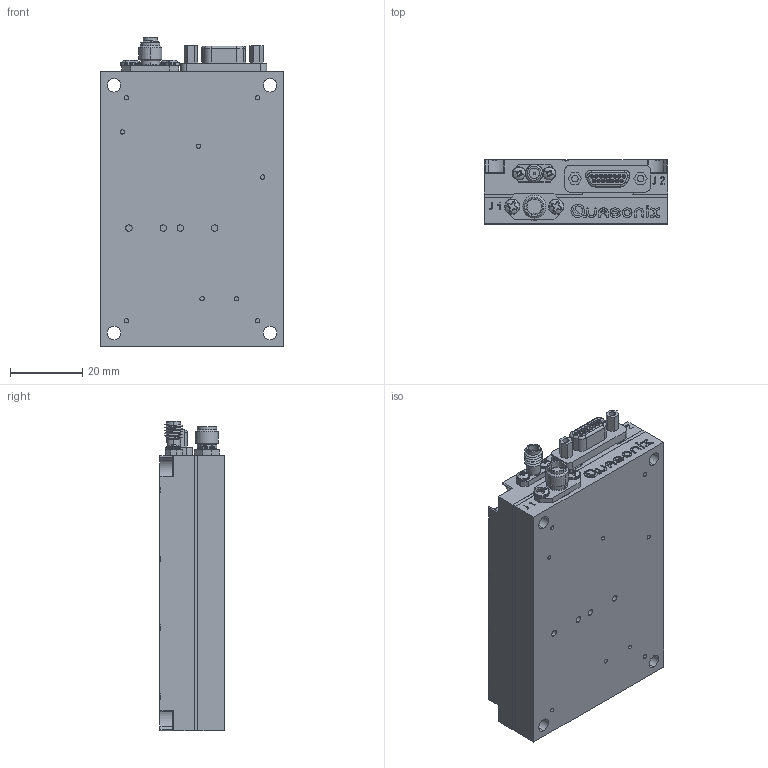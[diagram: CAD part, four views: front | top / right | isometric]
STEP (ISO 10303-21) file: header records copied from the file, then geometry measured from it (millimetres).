
FILE_DESCRIPTION (( 'STEP AP203' ), '1' );
FILE_NAME ('04AC_9-24-13.STEP', '2013-09-24T17:19:56', ( 'Quasonix' ), ( '' ), 'SwSTEP 2.0', 'SolidWorks 2012', '' );
FILE_SCHEMA (( 'CONFIG_CONTROL_DESIGN' ));
Length unit declared in the file: inch
Products named in the file (1): 04AC_9-24-13
Bounding box: 50.8 x 17.78 x 85.72 mm (x, y, z)
Surface area: 18536.3 mm2 (no closed solid volume)
Topology: 0 solids, 42 shells, 747 faces, 2216 edges, 1498 vertices
Faces by surface type: plane 398, cylinder 177, bspline 73, cone 66, torus 25, sphere 8
Entity records: 26780 total; most frequent: CARTESIAN_POINT 7053, DIRECTION 4042, ORIENTED_EDGE 3854, EDGE_CURVE 2212, VERTEX_POINT 1498, AXIS2_PLACEMENT_3D 1438, LINE 1166, VECTOR 1166
